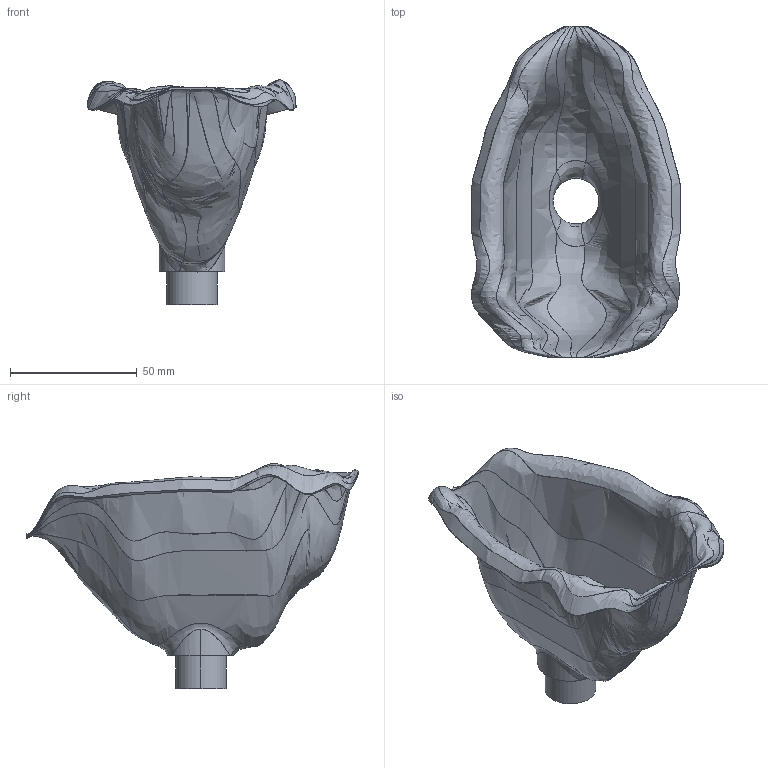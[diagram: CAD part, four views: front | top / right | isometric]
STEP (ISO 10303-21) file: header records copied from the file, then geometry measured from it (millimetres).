
FILE_DESCRIPTION(/* description */ (''),/* implementation_level */ '2;1');
FILE_NAME(/* name */ 'C:\Users\user\Documents\Inventor\Home Ventilator CPAP\medical mask.stp',/* time_stamp */ '2020-04-03T18:08:16+02:00',/* author */ ('user'),/* organization */ (''),/* preprocessor_version */ 'ST-DEVELOPER v16.5',/* originating_system */ 'Autodesk Inventor 2017',/* authorisation */ '');
FILE_SCHEMA (('AUTOMOTIVE_DESIGN { 1 0 10303 214 3 1 1 }'));
Length unit declared in the file: millimetre
Products named in the file (1): medical mask
Bounding box: 82.52 x 131 x 88.85 mm (x, y, z)
Surface area: 42203.9 mm2 (no closed solid volume)
Topology: 0 solids, 43 shells, 43 faces, 297 edges, 297 vertices
Faces by surface type: bspline 32, cylinder 7, plane 4
Entity records: 27403 total; most frequent: CARTESIAN_POINT 25626, VERTEX_POINT 297, EDGE_CURVE 297, ORIENTED_EDGE 297, B_SPLINE_CURVE_WITH_KNOTS 207, DIRECTION 162, AXIS2_PLACEMENT_3D 66, CIRCLE 50
